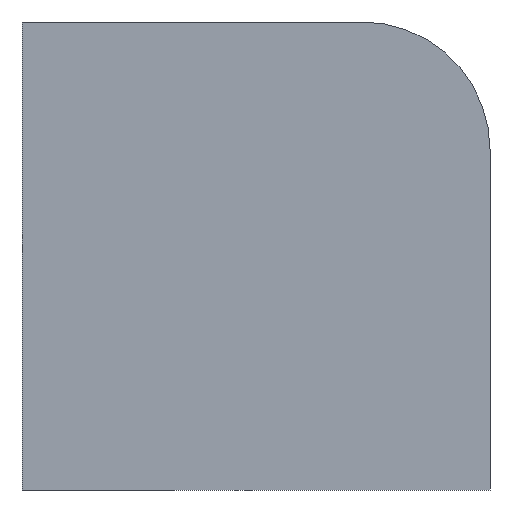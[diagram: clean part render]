
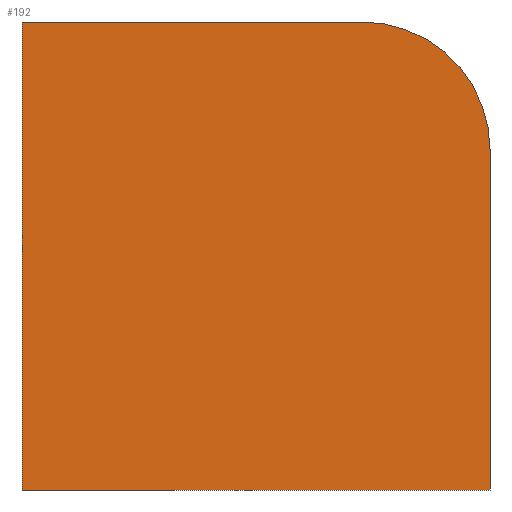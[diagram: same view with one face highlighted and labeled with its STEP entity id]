
A CAD part, front view. The second image highlights one B-rep face of the part: STEP entity #192.
In plain terms, the highlighted planar face has unit normal (0, -1, 0).
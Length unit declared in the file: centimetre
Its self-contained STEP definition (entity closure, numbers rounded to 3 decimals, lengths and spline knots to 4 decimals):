
#4 = DIRECTION ( 'NONE',  ( 0., 0., -1. ) ) ;
#5 = VECTOR ( 'NONE', #504, 100. ) ;
#6 = VERTEX_POINT ( 'NONE', #216 ) ;
#27 = CARTESIAN_POINT ( 'NONE',  ( 0., 0., 0. ) ) ;
#43 = ORIENTED_EDGE ( 'NONE', *, *, #616, .T. ) ;
#44 = VERTEX_POINT ( 'NONE', #455 ) ;
#62 = VECTOR ( 'NONE', #100, 100. ) ;
#77 = CARTESIAN_POINT ( 'NONE',  ( 726.8407, 0., 1000. ) ) ;
#85 = DIRECTION ( 'NONE',  ( 0., 1., 0. ) ) ;
#100 = DIRECTION ( 'NONE',  ( 1., 0., 0. ) ) ;
#104 = LINE ( 'NONE', #590, #62 ) ;
#142 = CIRCLE ( 'NONE', #307, 273.1593 ) ;
#154 = ORIENTED_EDGE ( 'NONE', *, *, #261, .F. ) ;
#192 = ADVANCED_FACE ( 'NONE', ( #564 ), #518, .F. ) ;
#216 = CARTESIAN_POINT ( 'NONE',  ( 0., 0., 1000. ) ) ;
#237 = VECTOR ( 'NONE', #4, 100. ) ;
#249 = CARTESIAN_POINT ( 'NONE',  ( 1000., 0., 1000. ) ) ;
#253 = LINE ( 'NONE', #249, #237 ) ;
#255 = CARTESIAN_POINT ( 'NONE',  ( 726.8407, 0., 726.8407 ) ) ;
#261 = EDGE_CURVE ( 'NONE', #44, #579, #253, .T. ) ;
#287 = VECTOR ( 'NONE', #487, 100. ) ;
#290 = AXIS2_PLACEMENT_3D ( 'NONE', #370, #85, #618 ) ;
#297 = CARTESIAN_POINT ( 'NONE',  ( 1000., 0., 0. ) ) ;
#307 = AXIS2_PLACEMENT_3D ( 'NONE', #255, #361, #501 ) ;
#322 = LINE ( 'NONE', #598, #5 ) ;
#330 = ORIENTED_EDGE ( 'NONE', *, *, #419, .F. ) ;
#334 = ORIENTED_EDGE ( 'NONE', *, *, #531, .T. ) ;
#361 = DIRECTION ( 'NONE',  ( 0., -1., 0. ) ) ;
#370 = CARTESIAN_POINT ( 'NONE',  ( 0., 0., 1000. ) ) ;
#371 = EDGE_LOOP ( 'NONE', ( #154, #43, #330, #540, #334 ) ) ;
#393 = LINE ( 'NONE', #585, #287 ) ;
#419 = EDGE_CURVE ( 'NONE', #6, #437, #322, .T. ) ;
#437 = VERTEX_POINT ( 'NONE', #77 ) ;
#453 = VERTEX_POINT ( 'NONE', #27 ) ;
#455 = CARTESIAN_POINT ( 'NONE',  ( 1000., 0., 726.8407 ) ) ;
#487 = DIRECTION ( 'NONE',  ( 0., 0., -1. ) ) ;
#501 = DIRECTION ( 'NONE',  ( 0., 0., 1. ) ) ;
#504 = DIRECTION ( 'NONE',  ( 1., 0., 0. ) ) ;
#518 = PLANE ( 'NONE',  #290 ) ;
#531 = EDGE_CURVE ( 'NONE', #453, #579, #104, .T. ) ;
#540 = ORIENTED_EDGE ( 'NONE', *, *, #619, .T. ) ;
#564 = FACE_OUTER_BOUND ( 'NONE', #371, .T. ) ;
#579 = VERTEX_POINT ( 'NONE', #297 ) ;
#585 = CARTESIAN_POINT ( 'NONE',  ( 0., 0., 1000. ) ) ;
#590 = CARTESIAN_POINT ( 'NONE',  ( 0., 0., 0. ) ) ;
#598 = CARTESIAN_POINT ( 'NONE',  ( 0., 0., 1000. ) ) ;
#616 = EDGE_CURVE ( 'NONE', #44, #437, #142, .T. ) ;
#618 = DIRECTION ( 'NONE',  ( 0., 0., 1. ) ) ;
#619 = EDGE_CURVE ( 'NONE', #6, #453, #393, .T. ) ;
